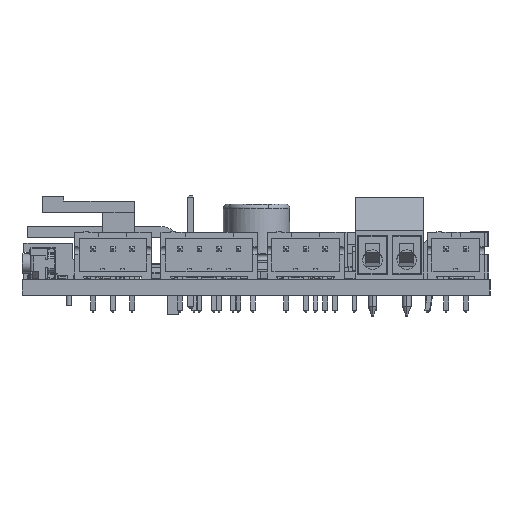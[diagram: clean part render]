
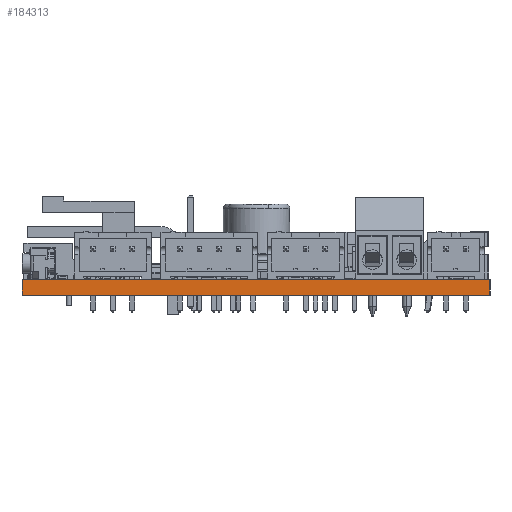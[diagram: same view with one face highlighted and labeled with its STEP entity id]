
A CAD part, left-side view. The second image highlights one B-rep face of the part: STEP entity #184313.
In plain terms, the highlighted planar face has unit normal (-1, 0, 0).
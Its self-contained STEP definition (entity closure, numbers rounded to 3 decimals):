
#184313 = ADVANCED_FACE('',(#184314),#184328,.T.);
#184314 = FACE_BOUND('',#184315,.T.);
#184315 = EDGE_LOOP('',(#184316,#184351,#184379,#184407));
#184316 = ORIENTED_EDGE('',*,*,#184317,.T.);
#184317 = EDGE_CURVE('',#184318,#184320,#184322,.T.);
#184318 = VERTEX_POINT('',#184319);
#184319 = CARTESIAN_POINT('',(0.,-0.,0.));
#184320 = VERTEX_POINT('',#184321);
#184321 = CARTESIAN_POINT('',(0.,0.,1.6));
#184322 = SURFACE_CURVE('',#184323,(#184327,#184339),.PCURVE_S1.);
#184323 = LINE('',#184324,#184325);
#184324 = CARTESIAN_POINT('',(0.,-0.,0.));
#184325 = VECTOR('',#184326,1.);
#184326 = DIRECTION('',(0.,0.,1.));
#184327 = PCURVE('',#184328,#184333);
#184328 = PLANE('',#184329);
#184329 = AXIS2_PLACEMENT_3D('',#184330,#184331,#184332);
#184330 = CARTESIAN_POINT('',(0.,0.,0.));
#184331 = DIRECTION('',(-1.,0.,0.));
#184332 = DIRECTION('',(0.,1.,0.));
#184333 = DEFINITIONAL_REPRESENTATION('',(#184334),#184338);
#184334 = LINE('',#184335,#184336);
#184335 = CARTESIAN_POINT('',(0.,0.));
#184336 = VECTOR('',#184337,1.);
#184337 = DIRECTION('',(0.,-1.));
#184338 = ( GEOMETRIC_REPRESENTATION_CONTEXT(2) 
PARAMETRIC_REPRESENTATION_CONTEXT() REPRESENTATION_CONTEXT('2D SPACE',''
  ) );
#184339 = PCURVE('',#184340,#184345);
#184340 = PLANE('',#184341);
#184341 = AXIS2_PLACEMENT_3D('',#184342,#184343,#184344);
#184342 = CARTESIAN_POINT('',(55.5,0.,0.));
#184343 = DIRECTION('',(0.,-1.,0.));
#184344 = DIRECTION('',(-1.,0.,0.));
#184345 = DEFINITIONAL_REPRESENTATION('',(#184346),#184350);
#184346 = LINE('',#184347,#184348);
#184347 = CARTESIAN_POINT('',(55.5,0.));
#184348 = VECTOR('',#184349,1.);
#184349 = DIRECTION('',(0.,-1.));
#184350 = ( GEOMETRIC_REPRESENTATION_CONTEXT(2) 
PARAMETRIC_REPRESENTATION_CONTEXT() REPRESENTATION_CONTEXT('2D SPACE',''
  ) );
#184351 = ORIENTED_EDGE('',*,*,#184352,.T.);
#184352 = EDGE_CURVE('',#184320,#184353,#184355,.T.);
#184353 = VERTEX_POINT('',#184354);
#184354 = CARTESIAN_POINT('',(0.,48.,1.6));
#184355 = SURFACE_CURVE('',#184356,(#184360,#184367),.PCURVE_S1.);
#184356 = LINE('',#184357,#184358);
#184357 = CARTESIAN_POINT('',(0.,0.,1.6));
#184358 = VECTOR('',#184359,1.);
#184359 = DIRECTION('',(0.,1.,0.));
#184360 = PCURVE('',#184328,#184361);
#184361 = DEFINITIONAL_REPRESENTATION('',(#184362),#184366);
#184362 = LINE('',#184363,#184364);
#184363 = CARTESIAN_POINT('',(0.,-1.6));
#184364 = VECTOR('',#184365,1.);
#184365 = DIRECTION('',(1.,0.));
#184366 = ( GEOMETRIC_REPRESENTATION_CONTEXT(2) 
PARAMETRIC_REPRESENTATION_CONTEXT() REPRESENTATION_CONTEXT('2D SPACE',''
  ) );
#184367 = PCURVE('',#184368,#184373);
#184368 = PLANE('',#184369);
#184369 = AXIS2_PLACEMENT_3D('',#184370,#184371,#184372);
#184370 = CARTESIAN_POINT('',(27.75,24.,1.6));
#184371 = DIRECTION('',(-0.,-0.,-1.));
#184372 = DIRECTION('',(-1.,0.,0.));
#184373 = DEFINITIONAL_REPRESENTATION('',(#184374),#184378);
#184374 = LINE('',#184375,#184376);
#184375 = CARTESIAN_POINT('',(27.75,-24.));
#184376 = VECTOR('',#184377,1.);
#184377 = DIRECTION('',(0.,1.));
#184378 = ( GEOMETRIC_REPRESENTATION_CONTEXT(2) 
PARAMETRIC_REPRESENTATION_CONTEXT() REPRESENTATION_CONTEXT('2D SPACE',''
  ) );
#184379 = ORIENTED_EDGE('',*,*,#184380,.F.);
#184380 = EDGE_CURVE('',#184381,#184353,#184383,.T.);
#184381 = VERTEX_POINT('',#184382);
#184382 = CARTESIAN_POINT('',(0.,48.,0.));
#184383 = SURFACE_CURVE('',#184384,(#184388,#184395),.PCURVE_S1.);
#184384 = LINE('',#184385,#184386);
#184385 = CARTESIAN_POINT('',(0.,48.,0.));
#184386 = VECTOR('',#184387,1.);
#184387 = DIRECTION('',(0.,0.,1.));
#184388 = PCURVE('',#184328,#184389);
#184389 = DEFINITIONAL_REPRESENTATION('',(#184390),#184394);
#184390 = LINE('',#184391,#184392);
#184391 = CARTESIAN_POINT('',(48.,0.));
#184392 = VECTOR('',#184393,1.);
#184393 = DIRECTION('',(0.,-1.));
#184394 = ( GEOMETRIC_REPRESENTATION_CONTEXT(2) 
PARAMETRIC_REPRESENTATION_CONTEXT() REPRESENTATION_CONTEXT('2D SPACE',''
  ) );
#184395 = PCURVE('',#184396,#184401);
#184396 = PLANE('',#184397);
#184397 = AXIS2_PLACEMENT_3D('',#184398,#184399,#184400);
#184398 = CARTESIAN_POINT('',(0.,48.,0.));
#184399 = DIRECTION('',(0.,1.,0.));
#184400 = DIRECTION('',(1.,0.,0.));
#184401 = DEFINITIONAL_REPRESENTATION('',(#184402),#184406);
#184402 = LINE('',#184403,#184404);
#184403 = CARTESIAN_POINT('',(0.,0.));
#184404 = VECTOR('',#184405,1.);
#184405 = DIRECTION('',(0.,-1.));
#184406 = ( GEOMETRIC_REPRESENTATION_CONTEXT(2) 
PARAMETRIC_REPRESENTATION_CONTEXT() REPRESENTATION_CONTEXT('2D SPACE',''
  ) );
#184407 = ORIENTED_EDGE('',*,*,#184408,.F.);
#184408 = EDGE_CURVE('',#184318,#184381,#184409,.T.);
#184409 = SURFACE_CURVE('',#184410,(#184414,#184421),.PCURVE_S1.);
#184410 = LINE('',#184411,#184412);
#184411 = CARTESIAN_POINT('',(0.,-0.,0.));
#184412 = VECTOR('',#184413,1.);
#184413 = DIRECTION('',(0.,1.,0.));
#184414 = PCURVE('',#184328,#184415);
#184415 = DEFINITIONAL_REPRESENTATION('',(#184416),#184420);
#184416 = LINE('',#184417,#184418);
#184417 = CARTESIAN_POINT('',(0.,0.));
#184418 = VECTOR('',#184419,1.);
#184419 = DIRECTION('',(1.,0.));
#184420 = ( GEOMETRIC_REPRESENTATION_CONTEXT(2) 
PARAMETRIC_REPRESENTATION_CONTEXT() REPRESENTATION_CONTEXT('2D SPACE',''
  ) );
#184421 = PCURVE('',#184422,#184427);
#184422 = PLANE('',#184423);
#184423 = AXIS2_PLACEMENT_3D('',#184424,#184425,#184426);
#184424 = CARTESIAN_POINT('',(27.75,24.,0.));
#184425 = DIRECTION('',(-0.,-0.,-1.));
#184426 = DIRECTION('',(-1.,0.,0.));
#184427 = DEFINITIONAL_REPRESENTATION('',(#184428),#184432);
#184428 = LINE('',#184429,#184430);
#184429 = CARTESIAN_POINT('',(27.75,-24.));
#184430 = VECTOR('',#184431,1.);
#184431 = DIRECTION('',(0.,1.));
#184432 = ( GEOMETRIC_REPRESENTATION_CONTEXT(2) 
PARAMETRIC_REPRESENTATION_CONTEXT() REPRESENTATION_CONTEXT('2D SPACE',''
  ) );
